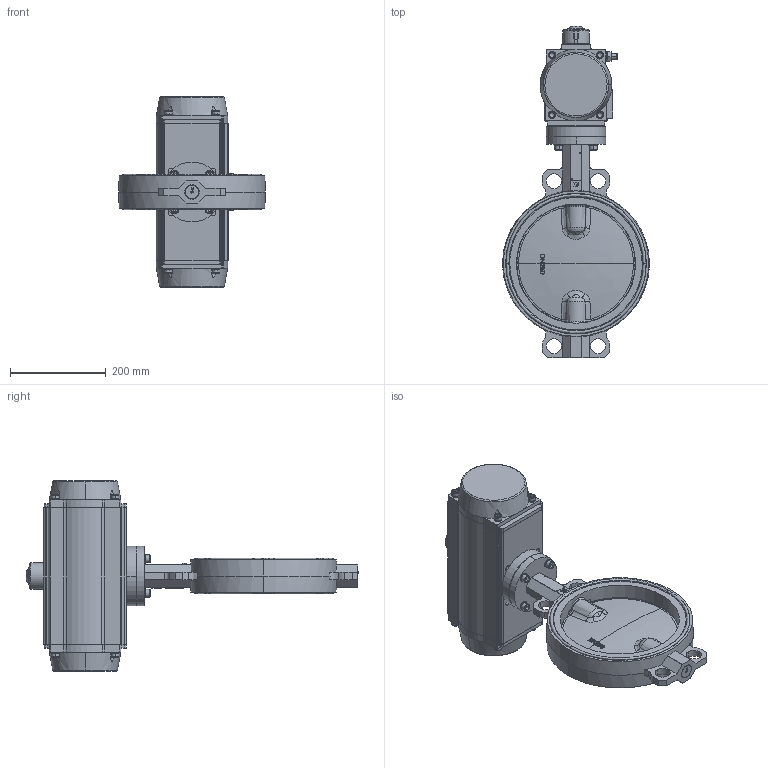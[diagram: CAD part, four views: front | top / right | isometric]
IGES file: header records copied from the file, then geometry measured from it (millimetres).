
Start section: SolidWorks IGES file using NURBS representation for surfaces
Global section: file name: H:\BE BIBLIOTHEQUE 3D\Projet_Biblio3D_2016\FSK\VPI\VPI-N03\VPI-N03 DN 250.Igs; native system: SolidWorks 2014; preprocessor: SolidWorks 2014; author: a.cartier; date: 160929.170848; units: millimetre
Bounding box: 307 x 693.57 x 398 mm (x, y, z)
Volume: 6538894.4 mm3; surface area: 1192040.9 mm2
Topology: 57 solids, 57 shells, 2438 faces, 6469 edges, 4134 vertices
Faces by surface type: bspline 2438
